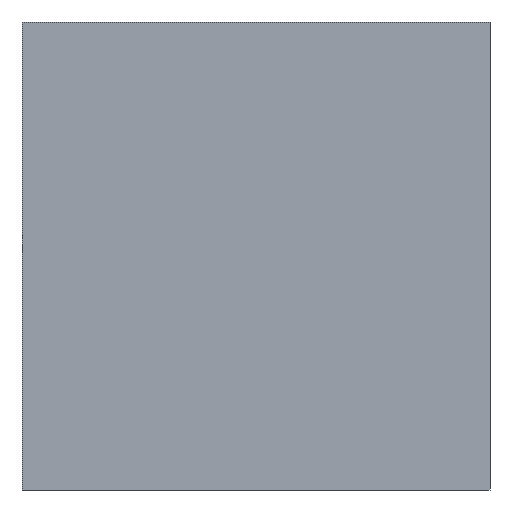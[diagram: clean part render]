
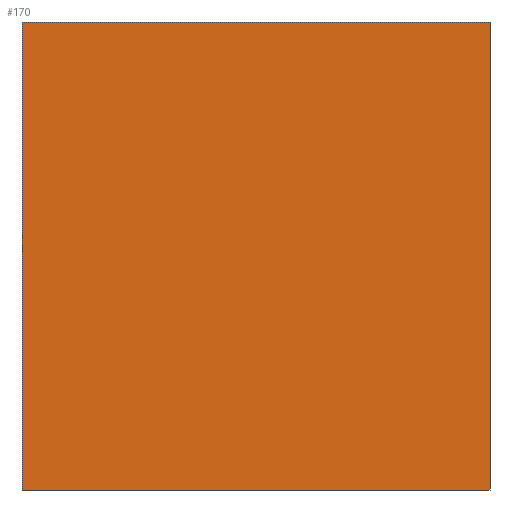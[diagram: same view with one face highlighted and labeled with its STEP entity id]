
A CAD part, left-side view. The second image highlights one B-rep face of the part: STEP entity #170.
In plain terms, the highlighted planar face has unit normal (-1, 0, 0).
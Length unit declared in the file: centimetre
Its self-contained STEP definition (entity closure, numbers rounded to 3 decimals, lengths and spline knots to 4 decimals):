
#25 = CARTESIAN_POINT ( 'NONE',  ( 0., 1000., 0. ) ) ;
#86 = EDGE_CURVE ( 'NONE', #594, #307, #463, .T. ) ;
#99 = DIRECTION ( 'NONE',  ( 1., 0., 0. ) ) ;
#109 = VERTEX_POINT ( 'NONE', #543 ) ;
#117 = DIRECTION ( 'NONE',  ( 0., 0., -1. ) ) ;
#131 = CARTESIAN_POINT ( 'NONE',  ( 0., 0., 0. ) ) ;
#144 = PLANE ( 'NONE',  #298 ) ;
#145 = EDGE_CURVE ( 'NONE', #202, #109, #398, .T. ) ;
#163 = LINE ( 'NONE', #224, #617 ) ;
#170 = ADVANCED_FACE ( 'NONE', ( #406 ), #144, .F. ) ;
#187 = CARTESIAN_POINT ( 'NONE',  ( 0., 1000., 1000. ) ) ;
#195 = VECTOR ( 'NONE', #557, 100. ) ;
#202 = VERTEX_POINT ( 'NONE', #187 ) ;
#204 = ORIENTED_EDGE ( 'NONE', *, *, #577, .F. ) ;
#224 = CARTESIAN_POINT ( 'NONE',  ( 0., 1000., 1000. ) ) ;
#230 = EDGE_LOOP ( 'NONE', ( #653, #204, #587, #411 ) ) ;
#298 = AXIS2_PLACEMENT_3D ( 'NONE', #304, #99, #660 ) ;
#304 = CARTESIAN_POINT ( 'NONE',  ( 0., 1000., 1000. ) ) ;
#306 = CARTESIAN_POINT ( 'NONE',  ( 0., 0., 1000. ) ) ;
#307 = VERTEX_POINT ( 'NONE', #131 ) ;
#351 = CARTESIAN_POINT ( 'NONE',  ( 0., 1000., 1000. ) ) ;
#396 = EDGE_CURVE ( 'NONE', #202, #594, #163, .T. ) ;
#398 = LINE ( 'NONE', #351, #502 ) ;
#406 = FACE_OUTER_BOUND ( 'NONE', #230, .T. ) ;
#411 = ORIENTED_EDGE ( 'NONE', *, *, #396, .T. ) ;
#429 = DIRECTION ( 'NONE',  ( 0., -1., 0. ) ) ;
#463 = LINE ( 'NONE', #476, #620 ) ;
#476 = CARTESIAN_POINT ( 'NONE',  ( 0., 1000., 0. ) ) ;
#502 = VECTOR ( 'NONE', #607, 100. ) ;
#543 = CARTESIAN_POINT ( 'NONE',  ( 0., 0., 1000. ) ) ;
#557 = DIRECTION ( 'NONE',  ( 0., 0., -1. ) ) ;
#568 = LINE ( 'NONE', #306, #195 ) ;
#577 = EDGE_CURVE ( 'NONE', #109, #307, #568, .T. ) ;
#587 = ORIENTED_EDGE ( 'NONE', *, *, #145, .F. ) ;
#594 = VERTEX_POINT ( 'NONE', #25 ) ;
#607 = DIRECTION ( 'NONE',  ( 0., -1., 0. ) ) ;
#617 = VECTOR ( 'NONE', #117, 100. ) ;
#620 = VECTOR ( 'NONE', #429, 100. ) ;
#653 = ORIENTED_EDGE ( 'NONE', *, *, #86, .T. ) ;
#660 = DIRECTION ( 'NONE',  ( 0., 0., -1. ) ) ;
